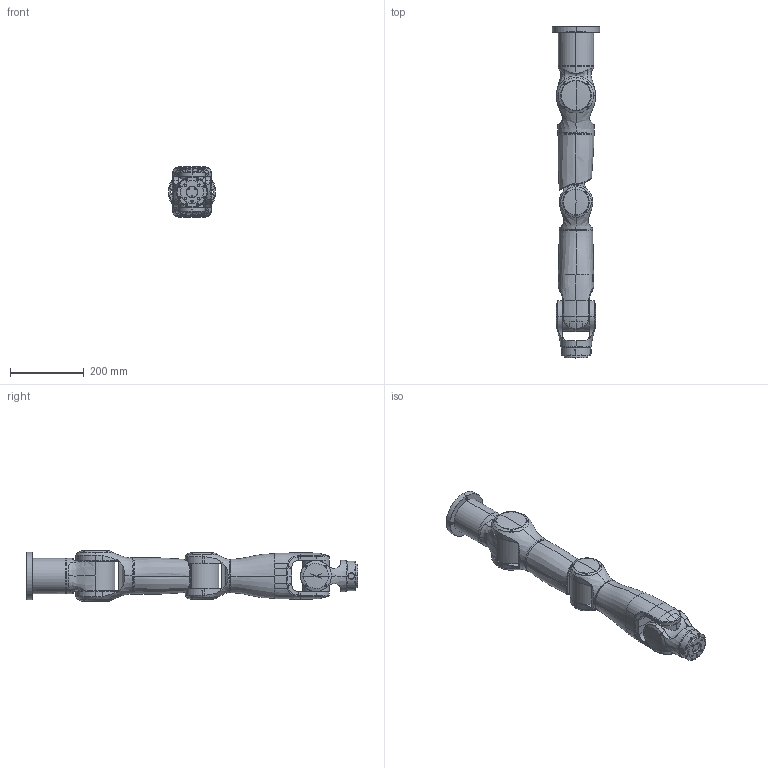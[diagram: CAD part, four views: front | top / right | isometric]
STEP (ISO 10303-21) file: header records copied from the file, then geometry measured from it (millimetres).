
FILE_DESCRIPTION (( 'STEP AP203' ), '1' );
FILE_NAME ('RD40-ART7-R7（L）-本体总装-外发模型-V1.0002.STEP', '2026-08-27T00:41:10', ( '' ), ( '' ), 'SwSTEP 2.0', 'SolidWorks 2018', '' );
FILE_SCHEMA (( 'CONFIG_CONTROL_DESIGN' ));
Length unit declared in the file: millimetre
Products named in the file (9): RD40-ART7-R7-L-5; RD40-ART7-R7-L-8; RD40-ART7-R7-L-4; RD40-ART7-R7-L-6; RD40-ART7-R7-L-3; RD40-ART7-R7-L-7; RD40-ART7-R7-L-2; RD40-ART7-R7-L-1; RD40-ART7-R7（L）-本体总装-外发模型-V1.0002
Assembly tree (8 placements, depth 2):
  RD40-ART7-R7（L）-本体总装-外发模型-V1.0002
    RD40-ART7-R7-L-1
    RD40-ART7-R7-L-2
    RD40-ART7-R7-L-3
    RD40-ART7-R7-L-4
    RD40-ART7-R7-L-5
    RD40-ART7-R7-L-6
    RD40-ART7-R7-L-7
    RD40-ART7-R7-L-8
Bounding box: 128 x 902.9 x 138 mm (x, y, z)
Volume: 7237545 mm3; surface area: 555475.3 mm2
Topology: 17 solids, 57 shells, 1754 faces, 4209 edges, 2607 vertices
Faces by surface type: plane 776, cylinder 462, bspline 251, cone 245, torus 20
Entity records: 88363 total; most frequent: CARTESIAN_POINT 48792, ORIENTED_EDGE 8214, DIRECTION 7561, EDGE_CURVE 4107, AXIS2_PLACEMENT_3D 2839, VERTEX_POINT 2607, EDGE_LOOP 1946, VECTOR 1883
